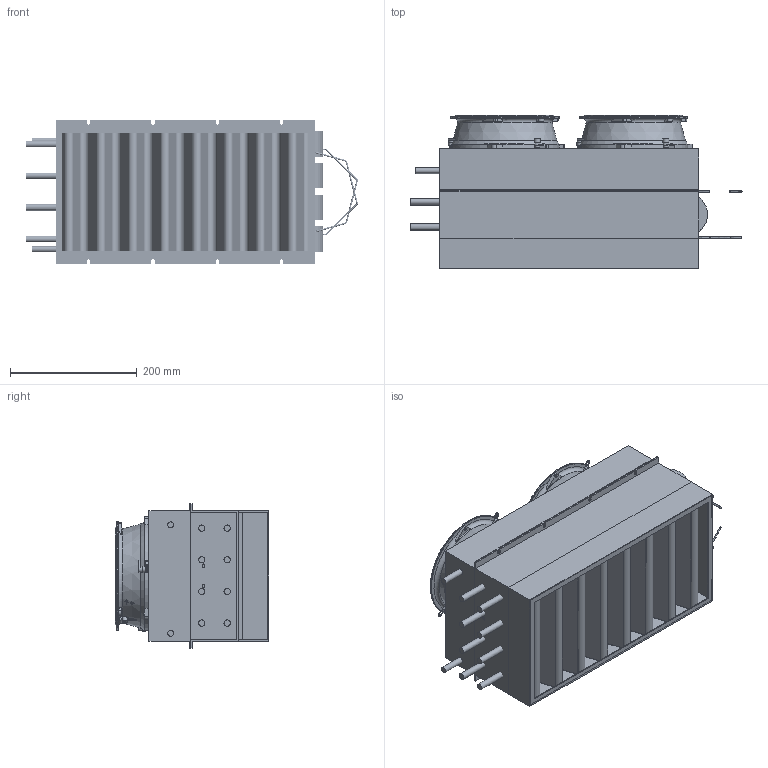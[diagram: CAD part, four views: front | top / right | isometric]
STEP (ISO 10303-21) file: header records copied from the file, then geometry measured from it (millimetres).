
FILE_DESCRIPTION(/* description */ (''),/* implementation_level */ '2;1');
FILE_NAME(/* name */ 'Recirculator_v5 20260310.stp',/* time_stamp */ '2026-03-10T15:30:27+01:00',/* author */ ('matte'),/* organization */ (''),/* preprocessor_version */ 'ST-DEVELOPER v20.1',/* originating_system */ 'Autodesk Inventor 2026',/* authorisation */ '');
FILE_SCHEMA (('AUTOMOTIVE_DESIGN { 1 0 10303 214 3 1 1 }'));
Products named in the file (12): Recirculator_v5; Thermatron 733SLP0; EBMplast DV 6200 9295414502_CKB_001_A; EBMplast 6224 grille LZ39; Recirculator_cover_v3; Heater THS50 48V; Recirculator_grid_v3; Recirculator_airfilter; Recirculator_v5.Harness1; Recirculator_v5.Harness1_1; Thermostat switch - Multicomp 03EN15T044(4025); RA40801500
Assembly tree (43 placements, depth 3):
  Recirculator_v5
    Thermatron 733SLP0
    EBMplast DV 6200 9295414502_CKB_001_A  x2
    EBMplast 6224 grille LZ39  x2
    Recirculator_cover_v3
    Heater THS50 48V  x24
    Recirculator_grid_v3  x2
    Recirculator_airfilter
    Recirculator_v5.Harness1
      Recirculator_v5.Harness1_1
    Thermostat switch - Multicomp 03EN15T044(4025)  x4
    RA40801500  x4
Bounding box: 524.69 x 242.04 x 228.6 mm (x, y, z)
Volume: 11609809.8 mm3; surface area: 2202272.7 mm2
Topology: 52 solids, 82 shells, 4332 faces, 11897 edges, 7808 vertices
Faces by surface type: plane 3322, cylinder 650, cone 182, torus 94, bspline 84
Full cylindrical faces by diameter (mm): 2 x6, 2.5 x48, 2.642 x12, 3.3 x48, 3.6 x16, 4 x54, 4.45 x8, 4.8 x6, 6 x2, 7 x6, 8 x2, 9.5 x6, 9.525 x2, 10 x8, 16 x4, 17.05 x2, 19 x4, 23.8 x2, 76.33 x2, 112 x2, 115 x2, 125.333 x2, 128.333 x2, 138.667 x2, 141.667 x2, 150 x4, 152 x2, 155 x2
Entity records: 71022 total; most frequent: CARTESIAN_POINT 16440, ORIENTED_EDGE 11434, DIRECTION 10648, EDGE_CURVE 5747, LINE 4328, VECTOR 4328, VERTEX_POINT 3765, AXIS2_PLACEMENT_3D 3160
